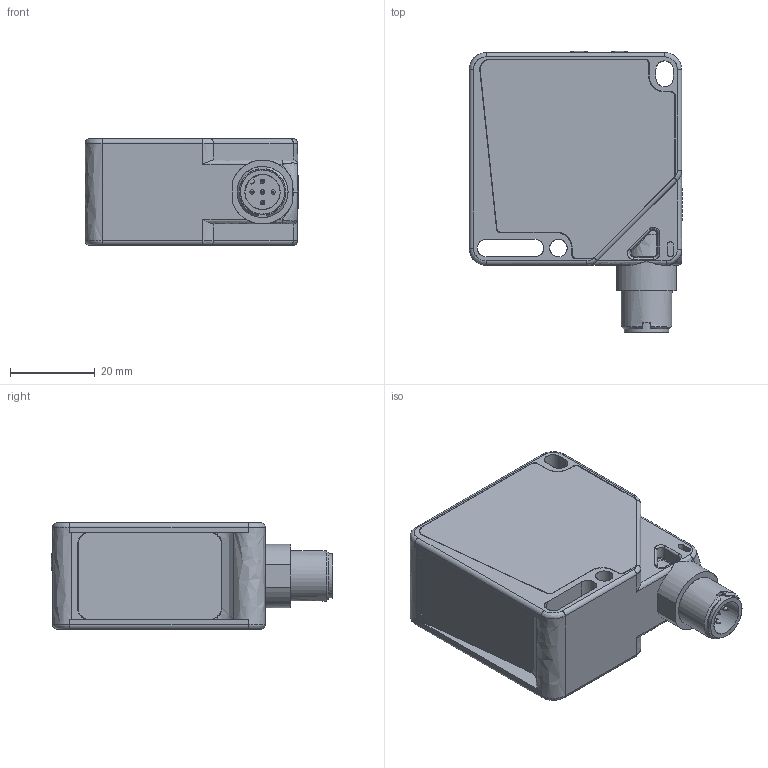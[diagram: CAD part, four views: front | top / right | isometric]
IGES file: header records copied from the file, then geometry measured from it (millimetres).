
Global section: file name: D:\CS\IDF\DSD-0836_S65TOF-IR.igs; native system: NX V10.0; preprocessor: SIEMENS PLM Software NX 10.0; date: 20151007.152819; units: millimetre
Bounding box: 50.3 x 66.25 x 25 mm (x, y, z)
Surface area: 14572 mm2 (no closed solid volume)
Topology: 0 solids, 0 shells, 374 faces, 2254 edges, 2234 vertices
Faces by surface type: bspline 374
